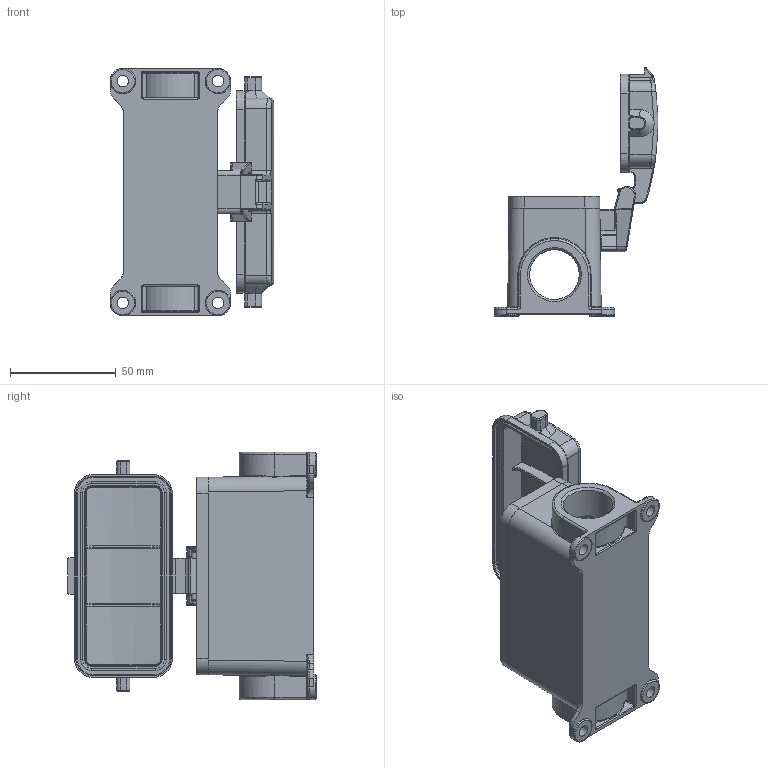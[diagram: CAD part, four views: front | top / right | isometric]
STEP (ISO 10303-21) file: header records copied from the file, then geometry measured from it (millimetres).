
FILE_DESCRIPTION (( 'STEP AP203' ), '1' );
FILE_NAME ('H16B-SDR-BO-2M25.STEP', '2023-06-09T03:16:07', ( '' ), ( '' ), 'SwSTEP 2.0', 'SolidWorks 2016', '' );
FILE_SCHEMA (( 'CONFIG_CONTROL_DESIGN' ));
Length unit declared in the file: millimetre
Products named in the file (1): H16B-SDR-BO-2M25
Bounding box: 77.42 x 117.4 x 117 mm (x, y, z)
Volume: 112401.7 mm3; surface area: 64278.6 mm2
Topology: 1 solids, 3 shells, 821 faces, 2048 edges, 1234 vertices
Faces by surface type: cylinder 304, plane 237, bspline 125, torus 112, cone 24, sphere 19
Full cylindrical faces by diameter (mm): 4 x2, 5.5 x4, 12 x4, 23.5 x1, 24 x1
Entity records: 31684 total; most frequent: CARTESIAN_POINT 13550, ORIENTED_EDGE 3964, DIRECTION 3511, EDGE_CURVE 1982, AXIS2_PLACEMENT_3D 1317, VERTEX_POINT 1206, EDGE_LOOP 882, LINE 877
